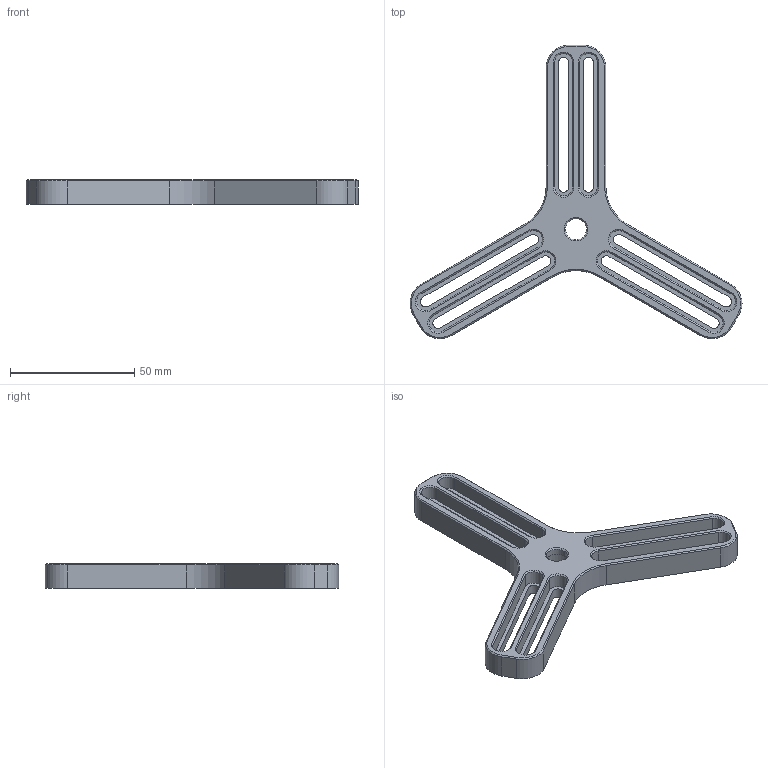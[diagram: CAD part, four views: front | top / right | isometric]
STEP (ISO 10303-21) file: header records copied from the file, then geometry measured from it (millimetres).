
FILE_DESCRIPTION (( 'STEP AP214' ), '1' );
FILE_NAME ('GSMP-05.STEP', '2019-12-04T09:03:53', ( '微软用户' ), ( '微软中国' ), 'SwSTEP 2.0', 'SolidWorks 2016', '' );
FILE_SCHEMA (( 'AUTOMOTIVE_DESIGN' ));
Length unit declared in the file: millimetre
Products named in the file (1): GSMP-05
Bounding box: 133.58 x 118.1 x 10 mm (x, y, z)
Volume: 28846.3 mm3; surface area: 18885.7 mm2
Topology: 1 solids, 1 shells, 123 faces, 298 edges, 184 vertices
Faces by surface type: plane 63, cylinder 37, cone 23
Entity records: 4972 total; most frequent: DIRECTION 643, CARTESIAN_POINT 606, ORIENTED_EDGE 596, EDGE_CURVE 298, AXIS2_PLACEMENT_3D 221, LINE 201, VECTOR 201, VERTEX_POINT 184
